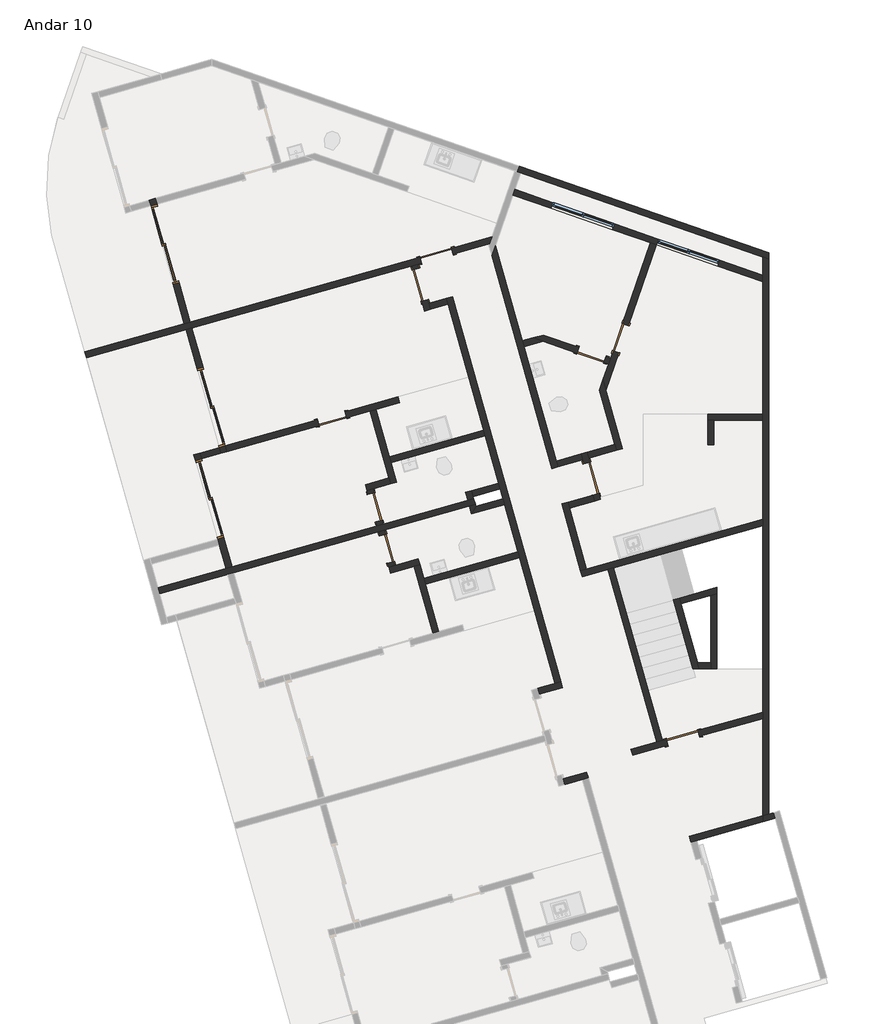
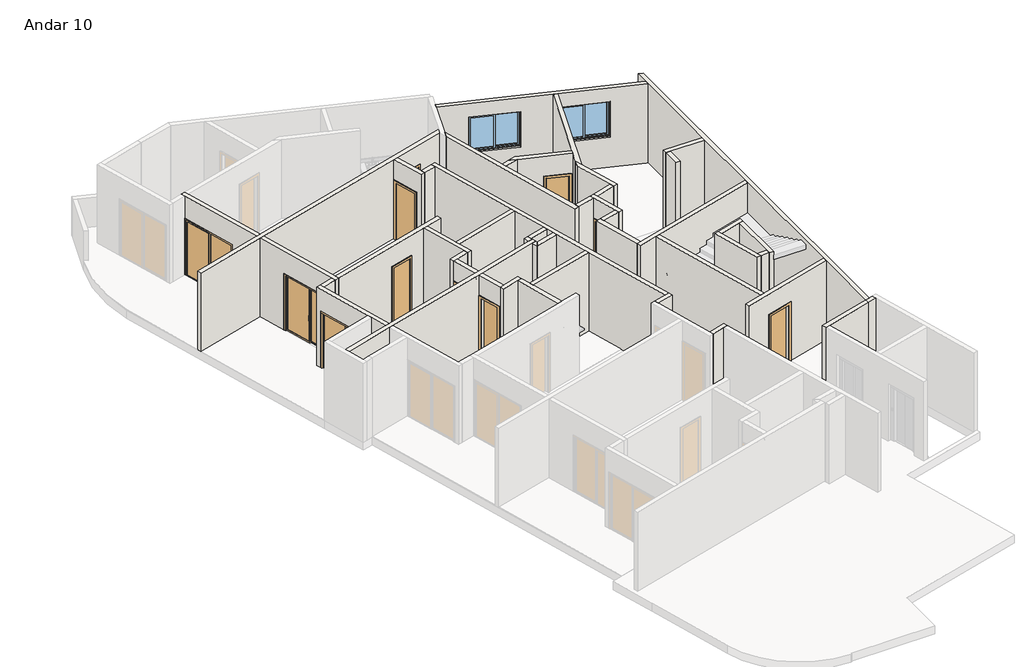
# One storey, part 2 of 3: 48 walls, 12 doors, 2 windows.
"""IFC4 building model written with IfcOpenShell, lengths in millimetres."""

from ifc_helpers import new_model, si_unit, frame, origin, place, context, project, spatial, polyline, outline, extrude, faceted_brep, transform, mapped, element, save
from components import p2_80cm_9d4be4ef, p2_80cm_083652d6, p3_70cm_ef4d15e3, p3_70cm_0a698c7c, p4_correr_200cm_eaaa0877, jx_160cm_e9e36a0c

model = new_model("IFC4")

# Units and contexts
model_context = context("Model", 3, world=origin())
ifc_project = project(units=[si_unit("LENGTHUNIT", "METRE", prefix="MILLI")], contexts=[model_context])

# Site, building, storey
site = spatial("IfcSite", under=ifc_project)
building = spatial("IfcBuilding", under=site)
storey = spatial("IfcBuildingStorey", under=building, Name="Andar 10", Elevation=79750.0)

# Doors
placement = place(None, origin())
p2_80cm_shape = p2_80cm_9d4be4ef(model_context)
element("IfcDoor", 1, ObjectType="M_Folha única1 : P2 - 80CM", at=placement, inside=storey, context=model_context, shape_type="MappedRepresentation", body=[
    mapped(p2_80cm_shape, transform((-83145.1128896, 30941.0402894, 79750.0), x_axis=(-0.9623628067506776, -0.2717679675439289, 0.0), y_axis=(0.2717679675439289, -0.9623628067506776, 0.0), z_axis=(0.0, 0.0, 1.0))),
])
element("IfcDoor", 2, ObjectType="M_Folha única1 : P2 - 80CM", at=placement, inside=storey, context=model_context, shape_type="MappedRepresentation", body=[
    mapped(p2_80cm_shape, transform((-79349.4097406, 25479.1041247, 79750.0), x_axis=(-0.27176796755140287, 0.962362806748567, 0.0), y_axis=(-0.962362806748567, -0.27176796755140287, 0.0), z_axis=(0.0, 0.0, 1.0))),
])
p2_80cm_2_shape = p2_80cm_083652d6(model_context)
element("IfcDoor", 3, ObjectType="M_Folha única1 : P2 - 80CM", at=placement, inside=storey, context=model_context, shape_type="MappedRepresentation", body=[
    mapped(p2_80cm_2_shape, transform((-83542.2049222, 30231.4150941, 79750.0), x_axis=(-0.2717679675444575, 0.9623628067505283, 0.0), y_axis=(-0.9623628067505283, -0.2717679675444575, 0.0), z_axis=(0.0, 0.0, 1.0))),
])
p3_70cm_shape = p3_70cm_ef4d15e3(model_context)
element("IfcDoor", 4, ObjectType="M_Folha única1 : P3 - 70CM", at=placement, inside=storey, context=model_context, shape_type="MappedRepresentation", body=[
    mapped(p3_70cm_shape, transform((-84650.97864, 24774.7108835, 79750.0), x_axis=(0.2717679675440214, -0.9623628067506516, 0.0), y_axis=(0.9623628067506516, 0.2717679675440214, 0.0), z_axis=(0.0, 0.0, 1.0))),
])
p3_70cm_2_shape = p3_70cm_0a698c7c(model_context)
element("IfcDoor", 5, ObjectType="M_Folha única1 : P3 - 70CM", at=placement, inside=storey, context=model_context, shape_type="MappedRepresentation", body=[
    mapped(p3_70cm_2_shape, transform((-84365.6222741, 23764.2299364, 79750.0), x_axis=(-0.2717679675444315, 0.9623628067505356, 0.0), y_axis=(-0.9623628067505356, -0.2717679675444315, 0.0), z_axis=(0.0, 0.0, 1.0))),
])
element("IfcDoor", 6, ObjectType="M_Folha única1 : P3 - 70CM", at=placement, inside=storey, context=model_context, shape_type="MappedRepresentation", body=[
    mapped(p3_70cm_2_shape, transform((-85705.4317558, 26944.8211633, 79750.0), x_axis=(0.9623628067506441, 0.2717679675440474, 0.0), y_axis=(-0.2717679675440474, 0.9623628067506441, 0.0), z_axis=(0.0, 0.0, 1.0))),
])
element("IfcDoor", 7, ObjectType="M_Folha única1 : P3 - 70CM", at=placement, inside=storey, context=model_context, shape_type="MappedRepresentation", body=[
    mapped(p3_70cm_2_shape, transform((-79346.1223746, 28509.6973665, 79750.0), x_axis=(0.9449109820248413, -0.32732741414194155, 0.0), y_axis=(0.32732741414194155, 0.9449109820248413, 0.0), z_axis=(0.0, 0.0, 1.0))),
])
element("IfcDoor", 8, ObjectType="M_Folha única1 : P3 - 70CM", at=placement, inside=storey, context=model_context, shape_type="MappedRepresentation", body=[
    mapped(p3_70cm_2_shape, transform((-78626.5662556, 28921.8732895, 79750.0), x_axis=(-0.32732741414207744, -0.9449109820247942, 0.0), y_axis=(0.9449109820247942, -0.32732741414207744, 0.0), z_axis=(0.0, 0.0, 1.0))),
])
p4_correr_200cm_shape = p4_correr_200cm_eaaa0877(model_context)
element("IfcDoor", 9, ObjectType="Porta de correr dupla envidraçada sem revestimento : P4 - CORRER - 200CM", at=placement, inside=storey, context=model_context, shape_type="MappedRepresentation", body=[
    mapped(p4_correr_200cm_shape, transform((-89799.7974026, 31217.9316171, 79750.0), x_axis=(0.27176796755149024, -0.9623628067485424, 0.0), y_axis=(0.9623628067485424, 0.27176796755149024, 0.0), z_axis=(0.0, 0.0, 1.0))),
])
element("IfcDoor", 10, ObjectType="Porta de correr dupla envidraçada sem revestimento : P4 - CORRER - 200CM", at=placement, inside=storey, context=model_context, shape_type="MappedRepresentation", body=[
    mapped(p4_correr_200cm_shape, transform((-88671.9603372, 27224.125969, 79750.0), x_axis=(-0.27176796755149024, 0.9623628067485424, 0.0), y_axis=(-0.9623628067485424, -0.27176796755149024, 0.0), z_axis=(0.0, 0.0, 1.0))),
])
element("IfcDoor", 11, ObjectType="Porta de correr dupla envidraçada sem revestimento : P4 - CORRER - 200CM", at=placement, inside=storey, context=model_context, shape_type="MappedRepresentation", body=[
    mapped(p4_correr_200cm_shape, transform((-88709.3738038, 24979.4758572, 79750.0), x_axis=(-0.2717679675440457, 0.9623628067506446, 0.0), y_axis=(-0.9623628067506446, -0.2717679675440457, 0.0), z_axis=(0.0, 0.0, 1.0))),
])
element("IfcDoor", 12, ObjectType="M_Folha única1 : PCF1 - 80CM", at=placement, inside=storey, context=model_context, shape_type="MappedRepresentation", body=[
    mapped(p2_80cm_shape, transform((-77103.5502958, 19127.1105693, 79750.0), x_axis=(-0.9623628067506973, -0.2717679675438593, 0.0), y_axis=(0.2717679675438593, -0.9623628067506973, 0.0), z_axis=(0.0, 0.0, 1.0))),
])

# Walls
element("IfcWall", 13, ObjectType="Básica .15 -  Interna", at=placement, inside=storey, context=model_context, shape_type="Brep", body=[
    faceted_brep([(-82901.0804648, 29892.9118737, 79750.0), (-82860.3152697, 29748.5574527, 79750.0), (-81990.6577736, 26668.9964711, 79750.0), (-81949.8925784, 26524.6420501, 79750.0), (-81623.7710174, 25369.806682, 79750.0), (-81583.0058223, 25225.452261, 79750.0), (-81515.0638304, 24984.8615593, 79750.0), (-81474.2986352, 24840.5071383, 79750.0), (-81148.1770742, 23685.6717702, 79750.0), (-81107.4118791, 23541.3173492, 79750.0), (-80237.7543829, 20461.7563676, 79750.0), (-80237.7543829, 20461.7563676, 82650.0), (-81107.4118791, 23541.3173492, 82650.0), (-81148.1770742, 23685.6717702, 82650.0), (-81474.2986352, 24840.5071383, 82650.0), (-81515.0638304, 24984.8615593, 82650.0), (-81583.0058223, 25225.452261, 82650.0), (-81623.7710174, 25369.806682, 82650.0), (-81949.8925784, 26524.6420501, 82650.0), (-81990.6577736, 26668.9964711, 82650.0), (-82860.3152697, 29748.5574527, 82650.0), (-82901.0804648, 29892.9118737, 82650.0), (-82756.7260438, 29933.6770689, 79750.0), (-82756.7260438, 29933.6770689, 82650.0), (-80093.3999619, 20502.5215627, 82650.0), (-80093.3999619, 20502.5215627, 79750.0)], [[[0, 1, 2, 3, 4, 5, 6, 7, 8, 9, 10, 11, 12, 13, 14, 15, 16, 17, 18, 19, 20, 21]], [[22, 23, 24, 25]], [[10, 9, 8, 7, 6, 5, 4, 3, 2, 1, 0, 22, 25]], [[21, 20, 19, 18, 17, 16, 15, 14, 13, 12, 11, 24, 23]], [[0, 21, 23, 22]], [[11, 10, 25, 24]]]),
])
element("IfcWall", 14, ObjectType="Básica .15 -  Interna", at=placement, inside=storey, context=model_context, shape_type="Brep", body=[
    faceted_brep([(-83750.2661164, 30692.2138999, 79750.0), (-83723.0893197, 30595.9776193, 79750.0), (-83723.0893197, 30595.9776193, 81850.0), (-83505.6749457, 29826.0873739, 81850.0), (-83505.6749457, 29826.0873739, 79750.0), (-83437.7329538, 29585.4966722, 79750.0), (-83437.7329538, 29585.4966722, 82650.0), (-83750.2661164, 30692.2138999, 82650.0), (-83578.7348987, 30636.7428144, 81850.0), (-83578.7348987, 30636.7428144, 79750.0), (-83605.9116954, 30732.9790951, 79750.0), (-83605.9116954, 30732.9790951, 82650.0), (-83334.1437279, 29770.6162883, 82650.0), (-83293.3785328, 29626.2618673, 82650.0), (-83293.3785328, 29626.2618673, 79750.0), (-83334.1437279, 29770.6162883, 79750.0), (-83361.3205246, 29866.852569, 79750.0), (-83361.3205246, 29866.852569, 81850.0)], [[[0, 1, 2, 3, 4, 5, 6, 7]], [[8, 9, 10, 11, 12, 13, 14, 15, 16, 17]], [[10, 9, 1, 0]], [[16, 15, 14, 5, 4]], [[7, 6, 13, 12, 11]], [[6, 5, 14, 13]], [[0, 7, 11, 10]], [[2, 1, 9, 8]], [[3, 2, 8, 17]], [[4, 3, 17, 16]]]),
])
element("IfcWall", 15, ObjectType="Básica .15 -  Interna", at=placement, inside=storey, context=model_context, shape_type="SweptSolid", body=[
    extrude(outline(polyline([(-82860.3152697, 29748.5574527), (-83293.3785328, 29626.2618673), (-83334.1437279, 29770.6162883), (-82901.0804648, 29892.9118737), (-82860.3152697, 29748.5574527)])), frame((0.0, 0.0, 79750.0), z_axis=(0.0, 0.0, 1.0), x_axis=(1.0, 0.0, 0.0)), (0.0, 0.0, 1.0), 2900.0),
])
element("IfcWall", 16, ObjectType="Básica .15 -  Interna", at=placement, inside=storey, context=model_context, shape_type="Brep", body=[
    faceted_brep([(-80093.3999619, 20502.5215627, 79750.0), (-80237.7543829, 20461.7563676, 79750.0), (-80670.817646, 20339.4607822, 79750.0), (-80670.817646, 20339.4607822, 82650.0), (-80237.7543829, 20461.7563676, 82650.0), (-80093.3999619, 20502.5215627, 82650.0), (-80052.6347668, 20358.1671417, 79750.0), (-80052.6347668, 20358.1671417, 82650.0), (-80630.0524508, 20195.1063612, 82650.0), (-80630.0524508, 20195.1063612, 79750.0)], [[[0, 1, 2, 3, 4, 5]], [[6, 7, 8, 9]], [[2, 1, 0, 6, 9]], [[5, 4, 3, 8, 7]], [[3, 2, 9, 8]], [[0, 5, 7, 6]]]),
])
element("IfcWall", 17, ObjectType="Básica .15 -  Interna", at=placement, inside=storey, context=model_context, shape_type="Brep", body=[
    faceted_brep([(-80004.9861255, 17981.6719056, 79750.0), (-79571.9228624, 18103.967491, 79750.0), (-79427.5684414, 18144.7326862, 79750.0), (-79427.5684414, 18144.7326862, 82650.0), (-79571.9228624, 18103.967491, 82650.0), (-80004.9861255, 17981.6719056, 82650.0), (-80045.7513206, 18126.0263266, 79750.0), (-80045.7513206, 18126.0263266, 82650.0), (-79468.3336366, 18289.0871072, 82650.0), (-79468.3336366, 18289.0871072, 79750.0)], [[[0, 1, 2, 3, 4, 5]], [[6, 7, 8, 9]], [[2, 1, 0, 6, 9]], [[5, 4, 3, 8, 7]], [[3, 2, 9, 8]], [[0, 5, 7, 6]]]),
])
element("IfcWall", 18, ObjectType="Básica .15 -  Interna", at=placement, inside=storey, context=model_context, shape_type="Brep", body=[
    faceted_brep([(-88305.9570711, 23274.9583478, 82650.0), (-88469.0178517, 23852.3760319, 82650.0), (-88509.7830468, 23996.7304529, 82650.0), (-89094.084177, 26065.8104874, 82650.0), (-89094.084177, 26065.8104874, 79750.0), (-89053.3189819, 25921.4560664, 79750.0), (-89053.3189819, 25921.4560664, 81850.0), (-88509.7830468, 23996.7304529, 81850.0), (-88509.7830468, 23996.7304529, 79750.0), (-88469.0178517, 23852.3760319, 79750.0), (-88305.9570711, 23274.9583478, 79750.0), (-88949.729756, 26106.5756825, 82650.0), (-88908.9645609, 25962.2212615, 82650.0), (-88161.6026501, 23315.723543, 82650.0), (-88161.6026501, 23315.723543, 79750.0), (-88365.4286258, 24037.495648, 79750.0), (-88365.4286258, 24037.495648, 81850.0), (-88908.9645609, 25962.2212615, 81850.0), (-88908.9645609, 25962.2212615, 79750.0), (-88949.729756, 26106.5756825, 79750.0)], [[[0, 1, 2, 3, 4, 5, 6, 7, 8, 9, 10]], [[11, 12, 13, 14, 15, 16, 17, 18, 19]], [[4, 19, 18, 5]], [[14, 10, 9, 8, 15]], [[3, 2, 1, 0, 13, 12, 11]], [[4, 3, 11, 19]], [[0, 10, 14, 13]], [[17, 6, 5, 18]], [[6, 17, 16, 7]], [[7, 16, 15, 8]]]),
])
element("IfcWall", 19, ObjectType="Básica .15 -  Interna", at=placement, inside=storey, context=model_context, shape_type="Brep", body=[
    faceted_brep([(-89143.3190618, 29169.2341801, 82650.0), (-88328.0151592, 26282.1457598, 82650.0), (-88287.249964, 26137.7913388, 82650.0), (-88287.249964, 26137.7913388, 79750.0), (-88328.0151592, 26282.1457598, 79750.0), (-88328.0151592, 26282.1457598, 81850.0), (-88871.5510943, 28206.8713733, 81850.0), (-88871.5510943, 28206.8713733, 79750.0), (-89143.3190618, 29169.2341801, 79750.0), (-88431.604385, 26097.0261437, 82650.0), (-88472.3695802, 26241.3805647, 82650.0), (-89287.6734828, 29128.468985, 82650.0), (-89287.6734828, 29128.468985, 79750.0), (-89015.9055153, 28166.1061782, 79750.0), (-89015.9055153, 28166.1061782, 81850.0), (-88472.3695802, 26241.3805647, 81850.0), (-88472.3695802, 26241.3805647, 79750.0), (-88431.604385, 26097.0261437, 79750.0)], [[[0, 1, 2, 3, 4, 5, 6, 7, 8]], [[9, 10, 11, 12, 13, 14, 15, 16, 17]], [[3, 17, 16, 4]], [[12, 8, 7, 13]], [[2, 1, 0, 11, 10, 9]], [[3, 2, 9, 17]], [[0, 8, 12, 11]], [[6, 14, 13, 7]], [[14, 6, 5, 15]], [[15, 5, 4, 16]]]),
])
element("IfcWall", 20, ObjectType="Básica .15 -  Interna", at=placement, inside=storey, context=model_context, shape_type="Brep", body=[
    faceted_brep([(-76904.7538909, 16570.3643175, 79750.0), (-76760.3994699, 16611.1295126, 79750.0), (-75147.8282189, 17066.5141226, 79750.0), (-75147.8282189, 17066.5141226, 82650.0), (-76760.3994699, 16611.1295126, 82650.0), (-76904.7538909, 16570.3643175, 82650.0), (-76945.5190861, 16714.7187385, 79750.0), (-76945.5190861, 16714.7187385, 82650.0), (-75147.8282189, 17222.3804954, 82650.0), (-75147.8282189, 17222.3804954, 79750.0)], [[[0, 1, 2, 3, 4, 5]], [[6, 7, 8, 9]], [[2, 1, 0, 6, 9]], [[5, 4, 3, 8, 7]], [[0, 5, 7, 6]], [[3, 2, 9, 8]]]),
])
element("IfcWall", 21, ObjectType="Básica .15 -  Interna", at=placement, inside=storey, context=model_context, shape_type="Brep", body=[
    faceted_brep([(-79570.9048554, 23078.5590693, 79750.0), (-78948.2127609, 23254.4051886, 79750.0), (-78803.8582924, 23295.1703972, 79750.0), (-75147.8282189, 24327.6207947, 79750.0), (-75147.8282189, 24327.6207947, 82650.0), (-78803.8582924, 23295.1703972, 82650.0), (-78948.2127609, 23254.4051886, 82650.0), (-79570.9048554, 23078.5590693, 82650.0), (-79611.6700506, 23222.9134903, 79750.0), (-79611.6700506, 23222.9134903, 82650.0), (-79467.3156296, 23263.6786855, 82650.0), (-75147.8282189, 24483.4871675, 82650.0), (-75147.8282189, 24483.4871675, 79750.0), (-79467.3156296, 23263.6786855, 79750.0)], [[[0, 1, 2, 3, 4, 5, 6, 7]], [[8, 9, 10, 11, 12, 13]], [[3, 2, 1, 0, 8, 13, 12]], [[7, 6, 5, 4, 11, 10, 9]], [[0, 7, 9, 8]], [[4, 3, 12, 11]]]),
])
element("IfcWall", 22, ObjectType="Básica .15 -  Interna", at=placement, inside=storey, context=model_context, shape_type="SweptSolid", body=[
    extrude(outline(polyline([(-77749.4687652, 19022.6385875), (-78948.2127609, 23254.4051886), (-78803.8582924, 23295.1703972), (-77605.1142967, 19063.4037961), (-77749.4687652, 19022.6385875)])), frame((0.0, 0.0, 79750.0), z_axis=(0.0, 0.0, 1.0), x_axis=(1.0, 0.0, 0.0)), (0.0, 0.0, 1.0), 2900.0),
])
element("IfcWall", 23, ObjectType="Básica .15 -  Interna", at=placement, inside=storey, context=model_context, shape_type="Brep", body=[
    faceted_brep([(-77508.878016, 19090.5805928, 81850.0), (-77508.878016, 19090.5805928, 79750.0), (-77605.1142967, 19063.4037961, 79750.0), (-77749.4687652, 19022.6385875, 79750.0), (-78375.5945972, 18845.8227925, 79750.0), (-78375.5945972, 18845.8227925, 82650.0), (-77749.4687652, 19022.6385875, 82650.0), (-77605.1142967, 19063.4037961, 82650.0), (-75147.8282189, 19757.3329862, 82650.0), (-75147.8282189, 19757.3329862, 79750.0), (-76738.9877706, 19307.9949669, 79750.0), (-76738.9877706, 19307.9949669, 81850.0), (-78334.829402, 18701.4683715, 79750.0), (-77468.1128209, 18946.2261718, 79750.0), (-77468.1128209, 18946.2261718, 81850.0), (-76698.2225755, 19163.6405459, 81850.0), (-76698.2225755, 19163.6405459, 79750.0), (-75147.8282189, 19601.4666134, 79750.0), (-75147.8282189, 19601.4666134, 82650.0), (-78334.829402, 18701.4683715, 82650.0)], [[[0, 1, 2, 3, 4, 5, 6, 7, 8, 9, 10, 11]], [[12, 13, 14, 15, 16, 17, 18, 19]], [[10, 9, 17, 16]], [[4, 3, 2, 1, 13, 12]], [[5, 4, 12, 19]], [[8, 7, 6, 5, 19, 18]], [[14, 13, 1, 0]], [[15, 14, 0, 11]], [[16, 15, 11, 10]], [[9, 8, 18, 17]]]),
])
element("IfcWall", 24, ObjectType="Básica .15 - Externa", at=placement, inside=storey, context=model_context, shape_type="Brep", body=[
    faceted_brep([(-75147.8282189, 30909.9128092, 82650.0), (-75147.8282189, 30909.9128092, 79750.0), (-75147.8282189, 30461.6117638, 79750.0), (-75147.8282189, 30302.8666514, 79750.0), (-75147.8282189, 27060.8243598, 79750.0), (-75147.8282189, 26910.8243598, 79750.0), (-75147.8282189, 24483.4871675, 79750.0), (-75147.8282189, 24327.6207947, 79750.0), (-75147.8282189, 19757.3329862, 79750.0), (-75147.8282189, 19601.4666134, 79750.0), (-75147.8282189, 17222.3804954, 79750.0), (-75147.8282189, 17222.3804954, 82650.0), (-75147.8282189, 19601.4666134, 82650.0), (-75147.8282189, 19757.3329862, 82650.0), (-75147.8282189, 24327.6207947, 82650.0), (-75147.8282189, 24483.4871675, 82650.0), (-75147.8282189, 26910.8243598, 82650.0), (-75147.8282189, 27060.8243598, 82650.0), (-75147.8282189, 30302.8666514, 82650.0), (-75147.8282189, 30461.6117638, 82650.0), (-74997.8282189, 30857.9511821, 79750.0), (-74997.8282189, 30857.9511821, 81050.0), (-74997.8282189, 30857.9511821, 82350.0), (-74997.8282189, 30857.9511821, 82650.0), (-74997.8282189, 17264.7399828, 82650.0), (-74997.8282189, 17264.7399828, 79750.0)], [[[0, 1, 2, 3, 4, 5, 6, 7, 8, 9, 10, 11, 12, 13, 14, 15, 16, 17, 18, 19]], [[20, 21, 22, 23, 24, 25]], [[10, 9, 8, 7, 6, 5, 4, 3, 2, 1, 20, 25]], [[0, 19, 18, 17, 16, 15, 14, 13, 12, 11, 24, 23]], [[11, 10, 25, 24]], [[0, 23, 22, 21, 20, 1]]]),
])
element("IfcWall", 25, ObjectType="Básica .15 -  Interna", at=placement, inside=storey, context=model_context, shape_type="Brep", body=[
    faceted_brep([(-80073.6755954, 24858.9302618, 79750.0), (-79611.6700506, 23222.9134903, 79750.0), (-79611.6700506, 23222.9134903, 82650.0), (-80073.6755954, 24858.9302618, 82650.0), (-79929.3211744, 24899.695457, 79750.0), (-79929.3211744, 24899.695457, 82650.0), (-79888.5559793, 24755.3410359, 82650.0), (-79467.3156296, 23263.6786855, 82650.0), (-79467.3156296, 23263.6786855, 79750.0), (-79888.5559793, 24755.3410359, 79750.0)], [[[0, 1, 2, 3]], [[4, 5, 6, 7, 8, 9]], [[1, 0, 4, 9, 8]], [[3, 2, 7, 6, 5]], [[0, 3, 5, 4]], [[2, 1, 8, 7]]]),
])
element("IfcWall", 26, ObjectType="Básica .15 -  Interna", at=placement, inside=storey, context=model_context, shape_type="Brep", body=[
    faceted_brep([(-79888.5559793, 24755.3410359, 79750.0), (-79272.1145689, 24929.4219834, 79750.0), (-79272.1145689, 24929.4219834, 82650.0), (-79888.5559793, 24755.3410359, 82650.0), (-79929.3211744, 24899.695457, 79750.0), (-79929.3211744, 24899.695457, 82650.0), (-79312.8797641, 25073.7764044, 82650.0), (-79312.8797641, 25073.7764044, 81850.0), (-79312.8797641, 25073.7764044, 79750.0)], [[[0, 1, 2, 3]], [[4, 5, 6, 7, 8]], [[1, 0, 4, 8]], [[3, 2, 6, 5]], [[0, 3, 5, 4]], [[2, 1, 8, 7, 6]]]),
])
element("IfcWall", 27, ObjectType="Básica .15 -  Interna", at=placement, inside=storey, context=model_context, shape_type="Brep", body=[
    faceted_brep([(-79598.23613, 26084.2573515, 79750.0), (-79557.4709349, 25939.9029305, 79750.0), (-79530.2941381, 25843.6666498, 79750.0), (-79530.2941381, 25843.6666498, 81850.0), (-79312.8797641, 25073.7764044, 81850.0), (-79312.8797641, 25073.7764044, 79750.0), (-79272.1145689, 24929.4219834, 79750.0), (-79272.1145689, 24929.4219834, 82650.0), (-79312.8797641, 25073.7764044, 82650.0), (-79557.4709349, 25939.9029305, 82650.0), (-79598.23613, 26084.2573515, 82650.0), (-79385.9397171, 25884.4318449, 81850.0), (-79385.9397171, 25884.4318449, 79750.0), (-79413.1165138, 25980.6681256, 79750.0), (-79453.881709, 26125.0225466, 79750.0), (-79453.881709, 26125.0225466, 82650.0), (-79413.1165138, 25980.6681256, 82650.0), (-79127.7601479, 24970.1871785, 82650.0), (-79127.7601479, 24970.1871785, 79750.0), (-79168.5253431, 25114.5415995, 79750.0), (-79168.5253431, 25114.5415995, 81850.0)], [[[0, 1, 2, 3, 4, 5, 6, 7, 8, 9, 10]], [[11, 12, 13, 14, 15, 16, 17, 18, 19, 20]], [[19, 18, 6, 5]], [[14, 13, 12, 2, 1, 0]], [[10, 9, 8, 7, 17, 16, 15]], [[7, 6, 18, 17]], [[0, 10, 15, 14]], [[3, 2, 12, 11]], [[4, 3, 11, 20]], [[5, 4, 20, 19]]]),
])
element("IfcWall", 28, ObjectType="Básica .15 -  Interna", at=placement, inside=storey, context=model_context, shape_type="Brep", body=[
    faceted_brep([(-81789.2550074, 30934.0017027, 79750.0), (-80318.2667662, 25725.0567879, 79750.0), (-80318.2667662, 25725.0567879, 82650.0), (-81789.2550074, 30934.0017027, 82650.0), (-81703.3880158, 31181.8778654, 79750.0), (-81703.3880158, 31181.8778654, 82650.0), (-81045.1503443, 28850.9797144, 82650.0), (-81004.3851492, 28706.6252933, 82650.0), (-80214.6775403, 25910.176404, 82650.0), (-80173.9123452, 25765.821983, 82650.0), (-80173.9123452, 25765.821983, 79750.0), (-80214.6775403, 25910.176404, 79750.0), (-81004.3851492, 28706.6252933, 79750.0), (-81045.1503443, 28850.9797144, 79750.0)], [[[0, 1, 2, 3]], [[4, 5, 6, 7, 8, 9, 10, 11, 12, 13]], [[1, 0, 4, 13, 12, 11, 10]], [[3, 2, 9, 8, 7, 6, 5]], [[0, 3, 5, 4]], [[2, 1, 10, 9]]]),
])
element("IfcWall", 29, ObjectType="Básica .15 -  Interna", at=placement, inside=storey, context=model_context, shape_type="Brep", body=[
    faceted_brep([(-88908.9645609, 25962.2212615, 79750.0), (-88431.604385, 26097.0261437, 79750.0), (-88431.604385, 26097.0261437, 82650.0), (-88908.9645609, 25962.2212615, 82650.0), (-88908.9645609, 25962.2212615, 81850.0), (-88949.729756, 26106.5756825, 79750.0), (-88949.729756, 26106.5756825, 82650.0), (-88472.3695802, 26241.3805647, 82650.0), (-88472.3695802, 26241.3805647, 79750.0)], [[[0, 1, 2, 3, 4]], [[5, 6, 7, 8]], [[1, 0, 5, 8]], [[3, 2, 7, 6]], [[0, 4, 3, 6, 5]], [[2, 1, 8, 7]]]),
])
element("IfcWall", 30, ObjectType="Básica .15 -  Interna", at=placement, inside=storey, context=model_context, shape_type="SweptSolid", body=[
    extrude(outline(polyline([(-79557.4709349, 25939.9029305), (-80173.9123452, 25765.821983), (-80214.6775403, 25910.176404), (-79598.23613, 26084.2573515), (-79557.4709349, 25939.9029305)])), frame((0.0, 0.0, 79750.0), z_axis=(0.0, 0.0, 1.0), x_axis=(1.0, 0.0, 0.0)), (0.0, 0.0, 1.0), 2900.0),
])
element("IfcWall", 31, ObjectType="Básica .15 -  Interna", at=placement, inside=storey, context=model_context, shape_type="Brep", body=[
    faceted_brep([(-91725.2428613, 28440.1077234, 79750.0), (-89287.6734828, 29128.468985, 79750.0), (-89143.3190618, 29169.2341801, 79750.0), (-83750.2661164, 30692.2138999, 79750.0), (-83605.9116954, 30732.9790951, 79750.0), (-83509.6754148, 30760.1558918, 79750.0), (-83509.6754148, 30760.1558918, 81850.0), (-82739.7851694, 30977.5702659, 81850.0), (-82739.7851694, 30977.5702659, 79750.0), (-81845.4155775, 31230.1371819, 79750.0), (-81845.4155775, 31230.1371819, 82650.0), (-83605.9116954, 30732.9790951, 82650.0), (-83750.2661164, 30692.2138999, 82650.0), (-89143.3190618, 29169.2341801, 82650.0), (-89287.6734828, 29128.468985, 82650.0), (-91725.2428613, 28440.1077234, 82650.0), (-83550.4406099, 30904.5103128, 81850.0), (-83550.4406099, 30904.5103128, 79750.0), (-89184.084257, 29313.5886011, 79750.0), (-89328.438678, 29272.823406, 79750.0), (-91766.0080564, 28584.4621444, 79750.0), (-91766.0080564, 28584.4621444, 82650.0), (-89328.438678, 29272.823406, 82650.0), (-89184.084257, 29313.5886011, 82650.0), (-81785.5670817, 31402.9045654, 82650.0), (-81785.5670817, 31402.9045654, 79750.0), (-82780.5503645, 31121.9246869, 79750.0), (-82780.5503645, 31121.9246869, 81850.0)], [[[0, 1, 2, 3, 4, 5, 6, 7, 8, 9, 10, 11, 12, 13, 14, 15]], [[16, 17, 18, 19, 20, 21, 22, 23, 24, 25, 26, 27]], [[26, 25, 9, 8]], [[20, 19, 18, 17, 5, 4, 3, 2, 1, 0]], [[15, 14, 13, 12, 11, 10, 24, 23, 22, 21]], [[0, 15, 21, 20]], [[10, 9, 25, 24]], [[6, 5, 17, 16]], [[7, 6, 16, 27]], [[8, 7, 27, 26]]]),
])
element("IfcWall", 32, ObjectType="Básica .15 -  Interna", at=placement, inside=storey, context=model_context, shape_type="Brep", body=[
    faceted_brep([(-90040.1533547, 32345.0314424, 82650.0), (-89999.3881596, 32200.6770214, 82650.0), (-89184.084257, 29313.5886011, 82650.0), (-89184.084257, 29313.5886011, 79750.0), (-89455.8522245, 30275.9514079, 79750.0), (-89455.8522245, 30275.9514079, 81850.0), (-89999.3881596, 32200.6770214, 81850.0), (-89999.3881596, 32200.6770214, 79750.0), (-90040.1533547, 32345.0314424, 79750.0), (-89328.438678, 29272.823406, 82650.0), (-90143.7425806, 32159.9118263, 82650.0), (-90184.5077758, 32304.2662473, 82650.0), (-90184.5077758, 32304.2662473, 79750.0), (-90143.7425806, 32159.9118262, 79750.0), (-90143.7425806, 32159.9118262, 81850.0), (-89600.2066455, 30235.1862128, 81850.0), (-89600.2066455, 30235.1862128, 79750.0), (-89328.438678, 29272.823406, 79750.0)], [[[0, 1, 2, 3, 4, 5, 6, 7, 8]], [[9, 10, 11, 12, 13, 14, 15, 16, 17]], [[12, 8, 7, 13]], [[3, 17, 16, 4]], [[2, 1, 0, 11, 10, 9]], [[0, 8, 12, 11]], [[3, 2, 9, 17]], [[15, 5, 4, 16]], [[5, 15, 14, 6]], [[6, 14, 13, 7]]]),
])
element("IfcWall", 33, ObjectType="Básica .15 -  Interna", at=placement, inside=storey, context=model_context, shape_type="Brep", body=[
    faceted_brep([(-89936.6922366, 22658.5779377, 79750.0), (-88265.191876, 23130.6039268, 79750.0), (-88120.837455, 23171.369122, 79750.0), (-84560.09507, 24176.9106019, 79750.0), (-84415.740649, 24217.675797, 79750.0), (-82192.6825654, 24845.459802, 79750.0), (-82192.6825654, 24845.459802, 82650.0), (-84415.740649, 24217.675797, 82650.0), (-84560.09507, 24176.9106019, 82650.0), (-88120.837455, 23171.369122, 82650.0), (-88265.191876, 23130.6039268, 82650.0), (-89936.6922366, 22658.5779377, 82650.0), (-89977.4574318, 22802.9323587, 79750.0), (-89977.4574318, 22802.9323587, 82650.0), (-88305.9570711, 23274.9583478, 82650.0), (-88161.6026501, 23315.723543, 82650.0), (-84600.8602651, 24321.2650229, 82650.0), (-84456.5058441, 24362.030218, 82650.0), (-82233.4477605, 24989.814223, 82650.0), (-82233.4477605, 24989.814223, 79750.0), (-84456.5058441, 24362.030218, 79750.0), (-84600.8602651, 24321.2650229, 79750.0), (-88161.6026501, 23315.723543, 79750.0), (-88305.9570711, 23274.9583478, 79750.0)], [[[0, 1, 2, 3, 4, 5, 6, 7, 8, 9, 10, 11]], [[12, 13, 14, 15, 16, 17, 18, 19, 20, 21, 22, 23]], [[5, 4, 3, 2, 1, 0, 12, 23, 22, 21, 20, 19]], [[6, 5, 19, 18]], [[11, 10, 9, 8, 7, 6, 18, 17, 16, 15, 14, 13]], [[0, 11, 13, 12]]]),
])
element("IfcWall", 34, ObjectType="Básica .15 -  Interna", at=placement, inside=storey, context=model_context, shape_type="Brep", body=[
    faceted_brep([(-81272.8781344, 32424.6503839, 79750.0), (-77897.5766162, 31255.4093243, 79750.0), (-77755.8399689, 31206.3102121, 79750.0), (-75147.8282189, 30302.8666514, 79750.0), (-75147.8282189, 30302.8666514, 82650.0), (-77755.8399689, 31206.3102121, 82650.0), (-77897.5766162, 31255.4093243, 82650.0), (-81272.8781344, 32424.6503839, 82650.0), (-78829.2985897, 31578.1679228, 80850.0), (-80341.1561609, 32101.8917854, 80850.0), (-80341.1561609, 32101.8917854, 82150.0), (-78829.2985897, 31578.1679228, 82150.0), (-76243.9823976, 30682.5863495, 80850.0), (-77755.8399689, 31206.3102121, 80850.0), (-77755.8399689, 31206.3102121, 82150.0), (-76243.9823976, 30682.5863495, 82150.0), (-81223.7790223, 32566.3870312, 79750.0), (-81223.7790223, 32566.3870312, 82650.0), (-75147.8282189, 30461.6117638, 82650.0), (-75147.8282189, 30461.6117638, 79750.0), (-78780.1994776, 31719.9045701, 80850.0), (-78780.1994776, 31719.9045701, 82150.0), (-80292.0570488, 32243.6284327, 82150.0), (-80292.0570488, 32243.6284327, 80850.0), (-76194.8832855, 30824.3229968, 80850.0), (-76194.8832855, 30824.3229968, 82150.0), (-77706.7408568, 31348.0468595, 82150.0), (-77706.7408568, 31348.0468595, 80850.0)], [[[0, 1, 2, 3, 4, 5, 6, 7], [8, 9, 10, 11], [12, 13, 14, 15]], [[16, 17, 18, 19], [20, 21, 22, 23], [24, 25, 26, 27]], [[3, 2, 1, 0, 16, 19]], [[7, 6, 5, 4, 18, 17]], [[0, 7, 17, 16]], [[21, 20, 8, 11]], [[22, 21, 11, 10]], [[23, 22, 10, 9]], [[20, 23, 9, 8]], [[25, 24, 12, 15]], [[26, 25, 15, 14]], [[27, 26, 14, 13]], [[24, 27, 13, 12]], [[4, 3, 19, 18]]]),
])
element("IfcWall", 35, ObjectType="Básica .15 - Externa", at=placement, inside=storey, context=model_context, shape_type="Brep", body=[
    faceted_brep([(-81156.3583355, 32991.3328194, 81050.0), (-81156.3583355, 32991.3328194, 79750.0), (-81156.3583355, 32991.3328194, 79450.0), (-81085.1216301, 32966.655652, 79450.0), (-74997.8282189, 30857.9511821, 79450.0), (-74997.8282189, 30857.9511821, 79750.0), (-74997.8282189, 30857.9511821, 81050.0), (-81085.1216301, 32966.655652, 81050.0), (-81107.2592234, 33133.0694667, 79450.0), (-81107.2592234, 33133.0694667, 79750.0), (-81107.2592234, 33133.0694667, 81050.0), (-81036.022518, 33108.3922993, 81050.0), (-74997.8282189, 31016.6962944, 81050.0), (-74997.8282189, 31016.6962944, 79450.0), (-81036.022518, 33108.3922993, 79450.0)], [[[0, 1, 2, 3, 4, 5, 6, 7]], [[8, 9, 10, 11, 12, 13, 14]], [[4, 3, 2, 8, 14, 13]], [[0, 7, 6, 12, 11, 10]], [[0, 10, 9, 8, 2, 1]], [[4, 13, 12, 6, 5]]]),
])
element("IfcWall", 36, ObjectType="Básica .15 -  Interna", at=placement, inside=storey, context=model_context, shape_type="SweptSolid", body=[
    extrude(outline(polyline([(-82179.094167, 24797.3416617), (-81515.0638304, 24984.8615593), (-81474.2986352, 24840.5071383), (-82282.6833929, 24612.2220455), (-82179.094167, 24797.3416617)])), frame((0.0, 0.0, 79750.0), z_axis=(0.0, 0.0, 1.0), x_axis=(1.0, 0.0, 0.0)), (0.0, 0.0, 1.0), 2900.0),
])
element("IfcWall", 37, ObjectType="Básica .15 -  Interna", at=placement, inside=storey, context=model_context, shape_type="SweptSolid", body=[
    extrude(outline(polyline([(-82192.6825654, 24845.459802), (-82179.094167, 24797.3416617), (-82282.6833929, 24612.2220455), (-82337.0369864, 24804.6946069), (-82192.6825654, 24845.459802)])), frame((0.0, 0.0, 79750.0), z_axis=(0.0, 0.0, 1.0), x_axis=(1.0, 0.0, 0.0)), (0.0, 0.0, 1.0), 2900.0),
])
element("IfcWall", 38, ObjectType="Básica .15 -  Interna", at=placement, inside=storey, context=model_context, shape_type="Brep", body=[
    faceted_brep([(-83593.7317942, 23514.6100515, 79750.0), (-84171.1494782, 23351.5492709, 79750.0), (-84315.5038992, 23310.7840758, 79750.0), (-84315.5038992, 23310.7840758, 82650.0), (-84171.1494782, 23351.5492709, 82650.0), (-83593.7317942, 23514.6100515, 82650.0), (-83552.966599, 23370.2556304, 79750.0), (-83552.966599, 23370.2556304, 82650.0), (-83697.32102, 23329.4904353, 82650.0), (-84274.7387041, 23166.4296548, 82650.0), (-84274.7387041, 23166.4296548, 79750.0), (-83697.32102, 23329.4904353, 79750.0)], [[[0, 1, 2, 3, 4, 5]], [[6, 7, 8, 9, 10, 11]], [[2, 1, 0, 6, 11, 10]], [[5, 4, 3, 9, 8, 7]], [[0, 5, 7, 6]], [[3, 2, 10, 9]]]),
])
element("IfcWall", 39, ObjectType="Básica .15 -  Interna", at=placement, inside=storey, context=model_context, shape_type="Brep", body=[
    faceted_brep([(-83090.9610542, 21734.238859, 79750.0), (-83417.0826153, 22889.0742271, 79750.0), (-83457.8478104, 23033.4286481, 79750.0), (-83552.966599, 23370.2556304, 79750.0), (-83552.966599, 23370.2556304, 82650.0), (-83457.8478104, 23033.4286481, 82650.0), (-83417.0826153, 22889.0742271, 82650.0), (-83090.9610542, 21734.238859, 82650.0), (-83235.3154752, 21693.4736638, 79750.0), (-83235.3154752, 21693.4736638, 82650.0), (-83697.32102, 23329.4904353, 82650.0), (-83697.32102, 23329.4904353, 79750.0)], [[[0, 1, 2, 3, 4, 5, 6, 7]], [[8, 9, 10, 11]], [[3, 2, 1, 0, 8, 11]], [[7, 6, 5, 4, 10, 9]], [[0, 7, 9, 8]], [[4, 3, 11, 10]]]),
])
element("IfcWall", 40, ObjectType="Básica .15 -  Interna", at=placement, inside=storey, context=model_context, shape_type="SweptSolid", body=[
    extrude(outline(polyline([(-83457.8478104, 23033.4286481), (-81148.1770742, 23685.6717702), (-81107.4118791, 23541.3173492), (-83417.0826153, 22889.0742271), (-83457.8478104, 23033.4286481)])), frame((0.0, 0.0, 79750.0), z_axis=(0.0, 0.0, 1.0), x_axis=(1.0, 0.0, 0.0)), (0.0, 0.0, 1.0), 2900.0),
])
element("IfcWall", 41, ObjectType="Básica .15 -  Interna", at=placement, inside=storey, context=model_context, shape_type="SweptSolid", body=[
    extrude(outline(polyline([(150.0, 0.0), (250.0, 0.0), (250.0, -2100.0), (950.0, -2100.0), (950.0, 0.0), (1050.0, 0.0), (1050.0, -2900.0), (150.0, -2900.0), (150.0, 0.0)])), frame((-84600.8602651, 24321.2650229, 79750.0), z_axis=(0.9623628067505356, 0.2717679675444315, 0.0), x_axis=(0.2717679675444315, -0.9623628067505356, 0.0)), (0.0, 0.0, 1.0), 150.0),
])
element("IfcWall", 42, ObjectType="Básica .15 -  Interna", at=placement, inside=storey, context=model_context, shape_type="Brep", body=[
    faceted_brep([(-84770.8044918, 27130.823522, 79750.0), (-84308.798947, 25494.8067505, 79750.0), (-84268.0337519, 25350.4523295, 79750.0), (-84268.0337519, 25350.4523295, 82650.0), (-84308.798947, 25494.8067505, 82650.0), (-84770.8044918, 27130.823522, 82650.0), (-84626.4500708, 27171.5887171, 79750.0), (-84626.4500708, 27171.5887171, 82650.0), (-84300.3285098, 26016.753349, 82650.0), (-84259.5633146, 25872.398928, 82650.0), (-84123.6793309, 25391.2175246, 82650.0), (-84123.6793309, 25391.2175246, 79750.0), (-84259.5633146, 25872.398928, 79750.0), (-84300.3285098, 26016.753349, 79750.0)], [[[0, 1, 2, 3, 4, 5]], [[6, 7, 8, 9, 10, 11, 12, 13]], [[2, 1, 0, 6, 13, 12, 11]], [[5, 4, 3, 10, 9, 8, 7]], [[3, 2, 11, 10]], [[0, 5, 7, 6]]]),
])
element("IfcWall", 43, ObjectType="Básica .15 -  Interna", at=placement, inside=storey, context=model_context, shape_type="SweptSolid", body=[
    extrude(outline(polyline([(-84300.3285098, 26016.753349), (-81990.6577736, 26668.9964711), (-81949.8925784, 26524.6420501), (-84259.5633146, 25872.398928), (-84300.3285098, 26016.753349)])), frame((0.0, 0.0, 79750.0), z_axis=(0.0, 0.0, 1.0), x_axis=(1.0, 0.0, 0.0)), (0.0, 0.0, 1.0), 2900.0),
])
element("IfcWall", 44, ObjectType="Básica .15 -  Interna", at=placement, inside=storey, context=model_context, shape_type="Brep", body=[
    faceted_brep([(-84308.798947, 25494.8067505, 79750.0), (-84886.2166311, 25331.74597, 79750.0), (-84886.2166311, 25331.74597, 82650.0), (-84308.798947, 25494.8067505, 82650.0), (-84268.0337519, 25350.4523295, 79750.0), (-84268.0337519, 25350.4523295, 82650.0), (-84701.0970149, 25228.1567441, 82650.0), (-84845.4514359, 25187.391549, 82650.0), (-84845.4514359, 25187.391549, 79750.0), (-84701.0970149, 25228.1567441, 79750.0)], [[[0, 1, 2, 3]], [[4, 5, 6, 7, 8, 9]], [[1, 0, 4, 9, 8]], [[3, 2, 7, 6, 5]], [[2, 1, 8, 7]], [[0, 3, 5, 4]]]),
])
element("IfcWall", 45, ObjectType="Básica .15 -  Interna", at=placement, inside=storey, context=model_context, shape_type="SweptSolid", body=[
    extrude(outline(polyline([(800.0, -2100.0), (800.0, 0.0), (900.0, 0.0), (900.0, -2900.0), (0.0, -2900.0), (0.0, 0.0), (100.0, 0.0), (100.0, -2100.0), (800.0, -2100.0)])), frame((-84845.4514359, 25187.391549, 79750.0), z_axis=(0.9623628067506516, 0.2717679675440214, 0.0), x_axis=(0.2717679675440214, -0.9623628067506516, 0.0)), (0.0, 0.0, 1.0), 150.0),
])
element("IfcWall", 46, ObjectType="Básica .15 -  Interna", at=placement, inside=storey, context=model_context, shape_type="Brep", body=[
    faceted_brep([(-82432.1557751, 25141.5215893, 79750.0), (-82377.8021816, 24949.0490279, 79750.0), (-82377.8021816, 24949.0490279, 82650.0), (-82432.1557751, 25141.5215893, 82650.0), (-82287.801354, 25182.2867844, 79750.0), (-82287.801354, 25182.2867844, 82650.0), (-82247.0361589, 25037.9323634, 82650.0), (-82233.4477605, 24989.814223, 82650.0), (-82233.4477605, 24989.814223, 79750.0), (-82247.0361589, 25037.9323634, 79750.0)], [[[0, 1, 2, 3]], [[4, 5, 6, 7, 8, 9]], [[1, 0, 4, 9, 8]], [[2, 1, 8, 7]], [[3, 2, 7, 6, 5]], [[0, 3, 5, 4]]]),
])
element("IfcWall", 47, ObjectType="Básica .15 -  Interna", at=placement, inside=storey, context=model_context, shape_type="SweptSolid", body=[
    extrude(outline(polyline([(-81583.0058223, 25225.452261), (-82247.0361589, 25037.9323634), (-82287.801354, 25182.2867844), (-81623.7710174, 25369.806682), (-81583.0058223, 25225.452261)])), frame((0.0, 0.0, 79750.0), z_axis=(0.0, 0.0, 1.0), x_axis=(1.0, 0.0, 0.0)), (0.0, 0.0, 1.0), 2900.0),
])
element("IfcWall", 48, ObjectType="Básica .15 -  Interna", at=placement, inside=storey, context=model_context, shape_type="Brep", body=[
    faceted_brep([(-76493.6479314, 26910.8243598, 79750.0), (-76343.6479314, 26910.8243598, 79750.0), (-75147.8282189, 26910.8243598, 79750.0), (-75147.8282189, 26910.8243598, 82650.0), (-76343.6479314, 26910.8243598, 82650.0), (-76493.6479314, 26910.8243598, 82650.0), (-76493.6479314, 27060.8243598, 79750.0), (-76493.6479314, 27060.8243598, 82650.0), (-75147.8282189, 27060.8243598, 82650.0), (-75147.8282189, 27060.8243598, 79750.0)], [[[0, 1, 2, 3, 4, 5]], [[6, 7, 8, 9]], [[2, 1, 0, 6, 9]], [[5, 4, 3, 8, 7]], [[0, 5, 7, 6]], [[3, 2, 9, 8]]]),
])
element("IfcWall", 49, ObjectType="Básica .15 -  Interna", at=placement, inside=storey, context=model_context, shape_type="SweptSolid", body=[
    extrude(outline(polyline([(-76343.6479314, 26910.8243598), (-76343.6479314, 26310.8243598), (-76493.6479314, 26310.8243598), (-76493.6479314, 26910.8243598), (-76343.6479314, 26910.8243598)])), frame((0.0, 0.0, 79750.0), z_axis=(0.0, 0.0, 1.0), x_axis=(1.0, 0.0, 0.0)), (0.0, 0.0, 1.0), 2900.0),
])
element("IfcWall", 50, ObjectType="Básica .15 -  Interna", at=placement, inside=storey, context=model_context, shape_type="Brep", body=[
    faceted_brep([(-78877.464657, 28426.7218055, 79750.0), (-78990.8539749, 28466.0010952, 79750.0), (-78990.8539749, 28466.0010952, 81850.0), (-79652.2916623, 28695.1302851, 81850.0), (-79652.2916623, 28695.1302851, 79750.0), (-80525.6718652, 28997.6786614, 79750.0), (-80525.6718652, 28997.6786614, 82650.0), (-78877.464657, 28426.7218055, 82650.0), (-79039.953087, 28324.2644479, 81850.0), (-79039.953087, 28324.2644479, 79750.0), (-78926.5637691, 28284.9851582, 79750.0), (-78926.5637691, 28284.9851582, 82650.0), (-80530.2499593, 28840.5194505, 82650.0), (-80778.126122, 28926.3864421, 82650.0), (-80778.126122, 28926.3864421, 79750.0), (-80530.2499593, 28840.5194505, 79750.0), (-79701.3907744, 28553.3936378, 79750.0), (-79701.3907744, 28553.3936378, 81850.0)], [[[0, 1, 2, 3, 4, 5, 6, 7]], [[8, 9, 10, 11, 12, 13, 14, 15, 16, 17]], [[10, 9, 1, 0]], [[16, 15, 14, 5, 4]], [[7, 6, 13, 12, 11]], [[2, 1, 9, 8]], [[3, 2, 8, 17]], [[4, 3, 17, 16]], [[6, 5, 14, 13]], [[0, 7, 11, 10]]]),
])
element("IfcWall", 51, ObjectType="Básica .15 -  Interna", at=placement, inside=storey, context=model_context, shape_type="SweptSolid", body=[
    extrude(outline(polyline([(-81045.1503443, 28850.9797144), (-80778.126122, 28926.3864421), (-80530.2499593, 28840.5194505), (-81004.3851492, 28706.6252933), (-81045.1503443, 28850.9797144)])), frame((0.0, 0.0, 79750.0), z_axis=(0.0, 0.0, 1.0), x_axis=(1.0, 0.0, 0.0)), (0.0, 0.0, 1.0), 2900.0),
])
element("IfcWall", 52, ObjectType="Básica .15 -  Interna", at=placement, inside=storey, context=model_context, shape_type="Brep", body=[
    faceted_brep([(-79146.9727346, 27648.7205404, 79750.0), (-78771.1333302, 26317.8283554, 79750.0), (-78730.3681351, 26173.4739343, 79750.0), (-78730.3681351, 26173.4739343, 82650.0), (-78771.1333302, 26317.8283554, 82650.0), (-79146.9727346, 27648.7205404, 82650.0), (-79061.105743, 27896.5967032, 79750.0), (-79061.105743, 27896.5967032, 82650.0), (-78989.8135237, 27644.1424464, 82650.0), (-78586.013714, 26214.2391295, 82650.0), (-78586.013714, 26214.2391295, 79750.0), (-78989.8135237, 27644.1424464, 79750.0)], [[[0, 1, 2, 3, 4, 5]], [[6, 7, 8, 9, 10, 11]], [[2, 1, 0, 6, 11, 10]], [[5, 4, 3, 9, 8, 7]], [[0, 5, 7, 6]], [[3, 2, 10, 9]]]),
])
element("IfcWall", 53, ObjectType="Básica .15 -  Interna", at=placement, inside=storey, context=model_context, shape_type="Brep", body=[
    faceted_brep([(-78811.9991742, 28615.7040019, 81850.0), (-78811.9991742, 28615.7040019, 79750.0), (-78877.464657, 28426.7218055, 79750.0), (-78926.5637691, 28284.9851582, 79750.0), (-79061.105743, 27896.5967032, 79750.0), (-79061.105743, 27896.5967032, 82650.0), (-78926.5637691, 28284.9851582, 82650.0), (-78877.464657, 28426.7218055, 82650.0), (-77897.5766162, 31255.4093243, 82650.0), (-77897.5766162, 31255.4093243, 79750.0), (-78582.8699843, 29277.1416893, 79750.0), (-78582.8699843, 29277.1416893, 81850.0), (-78989.8135237, 27644.1424464, 79750.0), (-78670.2625269, 28566.6048898, 79750.0), (-78670.2625269, 28566.6048898, 81850.0), (-78441.133337, 29228.0425772, 81850.0), (-78441.133337, 29228.0425772, 79750.0), (-77755.8399689, 31206.3102121, 79750.0), (-77755.8399689, 31206.3102121, 80850.0), (-77755.8399689, 31206.3102121, 82150.0), (-77755.8399689, 31206.3102121, 82650.0), (-78989.8135237, 27644.1424464, 82650.0)], [[[0, 1, 2, 3, 4, 5, 6, 7, 8, 9, 10, 11]], [[12, 13, 14, 15, 16, 17, 18, 19, 20, 21]], [[10, 9, 17, 16]], [[4, 3, 2, 1, 13, 12]], [[8, 7, 6, 5, 21, 20]], [[14, 13, 1, 0]], [[15, 14, 0, 11]], [[16, 15, 11, 10]], [[5, 4, 12, 21]], [[9, 8, 20, 19, 18, 17]]]),
])
element("IfcWall", 54, ObjectType="Básica .15 -  Interna", at=placement, inside=storey, context=model_context, shape_type="Brep", body=[
    faceted_brep([(-85348.2221759, 26967.7627414, 81850.0), (-85348.2221759, 26967.7627414, 79750.0), (-84770.8044918, 27130.823522, 79750.0), (-84626.4500708, 27171.5887171, 79750.0), (-84049.0323868, 27334.6494976, 79750.0), (-84049.0323868, 27334.6494976, 82650.0), (-84626.4500708, 27171.5887171, 82650.0), (-84770.8044918, 27130.823522, 82650.0), (-88287.249964, 26137.7913388, 82650.0), (-88287.249964, 26137.7913388, 79750.0), (-86021.8761406, 26777.5251642, 79750.0), (-86021.8761406, 26777.5251642, 81850.0), (-84089.7975819, 27479.0039186, 79750.0), (-85388.987371, 27112.1171625, 79750.0), (-85388.987371, 27112.1171625, 81850.0), (-86062.6413357, 26921.8795852, 81850.0), (-86062.6413357, 26921.8795852, 79750.0), (-88328.0151592, 26282.1457598, 79750.0), (-88328.0151592, 26282.1457598, 82650.0), (-84089.7975819, 27479.0039186, 82650.0)], [[[0, 1, 2, 3, 4, 5, 6, 7, 8, 9, 10, 11]], [[12, 13, 14, 15, 16, 17, 18, 19]], [[10, 9, 17, 16]], [[4, 3, 2, 1, 13, 12]], [[5, 4, 12, 19]], [[8, 7, 6, 5, 19, 18]], [[16, 15, 11, 10]], [[15, 14, 0, 11]], [[14, 13, 1, 0]], [[9, 8, 18, 17]]]),
])
element("IfcWall", 55, ObjectType="Básica .15 -  Interna", at=placement, inside=storey, context=model_context, shape_type="SweptSolid", body=[
    extrude(outline(polyline([(-78730.3681351, 26173.4739343), (-79413.1165138, 25980.6681256), (-79453.881709, 26125.0225466), (-78771.1333302, 26317.8283554), (-78730.3681351, 26173.4739343)])), frame((0.0, 0.0, 79750.0), z_axis=(0.0, 0.0, 1.0), x_axis=(1.0, 0.0, 0.0)), (0.0, 0.0, 1.0), 2900.0),
])
element("IfcWall", 56, ObjectType="Básica .15 -  Interna", at=placement, inside=storey, context=model_context, shape_type="Brep", body=[
    faceted_brep([(-76703.5854218, 20819.1154254, 79750.0), (-76745.9449092, 20969.1154254, 79750.0), (-77152.5348621, 22408.8989724, 79750.0), (-77193.3000572, 22553.2533934, 79750.0), (-77193.3000572, 22553.2533934, 82650.0), (-77152.5348621, 22408.8989724, 82650.0), (-76745.9449092, 20969.1154254, 82650.0), (-76703.5854218, 20819.1154254, 82650.0), (-76859.4517946, 20819.1154254, 79750.0), (-76859.4517946, 20819.1154254, 82650.0), (-77337.6544782, 22512.4881983, 82650.0), (-77337.6544782, 22512.4881983, 79750.0)], [[[0, 1, 2, 3, 4, 5, 6, 7]], [[8, 9, 10, 11]], [[3, 2, 1, 0, 8, 11]], [[7, 6, 5, 4, 10, 9]], [[4, 3, 11, 10]], [[0, 7, 9, 8]]]),
])
element("IfcWall", 57, ObjectType="Básica .15 -  Interna", at=placement, inside=storey, context=model_context, shape_type="Brep", body=[
    faceted_brep([(-77152.5348621, 22408.8989724, 79750.0), (-76425.2862396, 22614.2714979, 79750.0), (-76275.2862396, 22656.6309852, 79750.0), (-76275.2862396, 22656.6309852, 82650.0), (-76425.2862396, 22614.2714979, 82650.0), (-77152.5348621, 22408.8989724, 82650.0), (-77193.3000572, 22553.2533934, 79750.0), (-77193.3000572, 22553.2533934, 82650.0), (-76275.2862396, 22812.497358, 82650.0), (-76275.2862396, 22812.497358, 79750.0)], [[[0, 1, 2, 3, 4, 5]], [[6, 7, 8, 9]], [[2, 1, 0, 6, 9]], [[5, 4, 3, 8, 7]], [[0, 5, 7, 6]], [[3, 2, 9, 8]]]),
])
element("IfcWall", 58, ObjectType="Básica .15 -  Interna", at=placement, inside=storey, context=model_context, shape_type="Brep", body=[
    faceted_brep([(-76425.2862396, 22614.2714979, 79750.0), (-76425.2862396, 20969.1154254, 79750.0), (-76425.2862396, 20819.1154254, 79750.0), (-76425.2862396, 20819.1154254, 82650.0), (-76425.2862396, 20969.1154254, 82650.0), (-76425.2862396, 22614.2714979, 82650.0), (-76275.2862396, 22656.6309852, 79750.0), (-76275.2862396, 22656.6309852, 82650.0), (-76275.2862396, 20819.1154254, 82650.0), (-76275.2862396, 20819.1154254, 79750.0)], [[[0, 1, 2, 3, 4, 5]], [[6, 7, 8, 9]], [[2, 1, 0, 6, 9]], [[5, 4, 3, 8, 7]], [[0, 5, 7, 6]], [[3, 2, 9, 8]]]),
])
element("IfcWall", 59, ObjectType="Básica .15 -  Interna", at=placement, inside=storey, context=model_context, shape_type="SweptSolid", body=[
    extrude(outline(polyline([(-76745.9449092, 20969.1154254), (-76425.2862396, 20969.1154254), (-76425.2862396, 20819.1154254), (-76703.5854218, 20819.1154254), (-76745.9449092, 20969.1154254)])), frame((0.0, 0.0, 79750.0), z_axis=(0.0, 0.0, 1.0), x_axis=(1.0, 0.0, 0.0)), (0.0, 0.0, 1.0), 2900.0),
])
element("IfcWall", 60, ObjectType="Básica .15 - Externa", at=placement, inside=storey, context=model_context, shape_type="Brep", body=[
    faceted_brep([(-75147.8282189, 17066.5141226, 79750.0), (-74840.4856705, 17153.3066079, 79750.0), (-74840.4856705, 17153.3066079, 82650.0), (-75147.8282189, 17066.5141226, 82650.0), (-75147.8282189, 17222.3804954, 79750.0), (-75147.8282189, 17222.3804954, 82650.0), (-74997.8282189, 17264.7399828, 82650.0), (-74881.2508656, 17297.6610289, 82650.0), (-74881.2508656, 17297.6610289, 79750.0), (-74997.8282189, 17264.7399828, 79750.0)], [[[0, 1, 2, 3]], [[4, 5, 6, 7, 8, 9]], [[1, 0, 4, 9, 8]], [[3, 2, 7, 6, 5]], [[2, 1, 8, 7]], [[0, 3, 5, 4]]]),
])

# Windows
jx_160cm_shape = jx_160cm_e9e36a0c(model_context)
element("IfcWindow", 61, ObjectType="Janela de correr - 2 Painéis : JX - 160CM", at=placement, inside=storey, context=model_context, shape_type="MappedRepresentation", body=[
    mapped(jx_160cm_shape, transform((-79560.6778192, 31910.8981777, 80200.0), x_axis=(-0.9449109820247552, 0.3273274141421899, 0.0), y_axis=(-0.3273274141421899, -0.9449109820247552, 0.0), z_axis=(0.0, 0.0, 1.0))),
])
element("IfcWindow", 62, ObjectType="Janela de correr - 2 Painéis : JX - 160CM", at=placement, inside=storey, context=model_context, shape_type="MappedRepresentation", body=[
    mapped(jx_160cm_shape, transform((-76975.3616272, 31015.3166045, 80200.0), x_axis=(-0.9449109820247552, 0.3273274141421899, 0.0), y_axis=(-0.3273274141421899, -0.9449109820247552, 0.0), z_axis=(0.0, 0.0, 1.0))),
])

save(model, "model.ifc")
